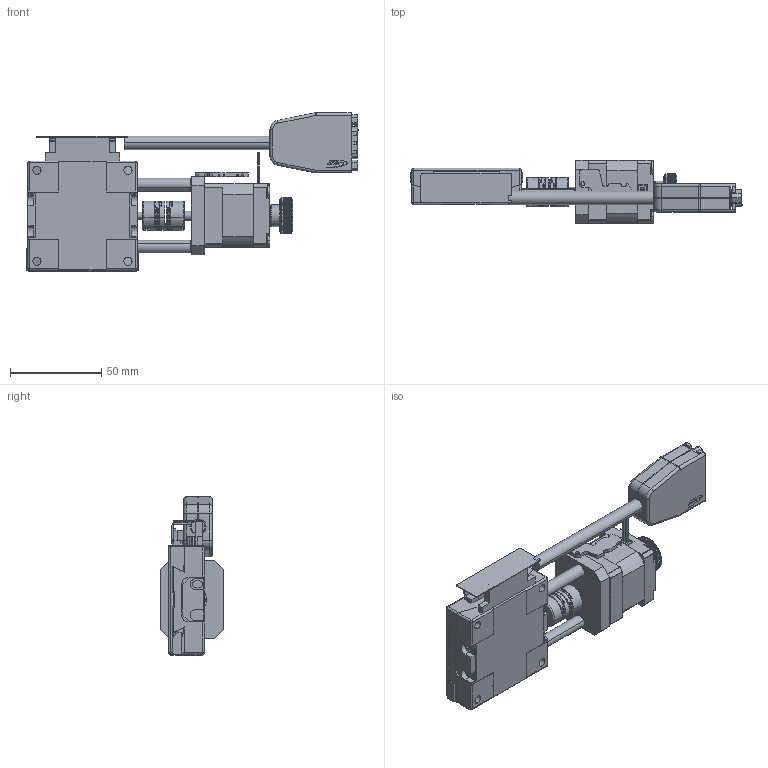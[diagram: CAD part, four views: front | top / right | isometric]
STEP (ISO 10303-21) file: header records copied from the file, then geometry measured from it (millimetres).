
FILE_DESCRIPTION (( 'STEP AP203' ), '1' );
FILE_NAME ('AXG6-60CSW-3NL ¼Ò½k¤Æ.STEP', '2014-12-06T05:55:41', ( '' ), ( '' ), 'SwSTEP 2.0', 'SolidWorks 2014', '' );
FILE_SCHEMA (( 'CONFIG_CONTROL_DESIGN' ));
Products named in the file (3): Group3^AXG6-60CSW-3NL 模糊化; Group4^AXG6-60CSW-3NL 模糊化; AXG6-60CSW-3NL 模糊化
Assembly tree (2 placements, depth 2):
  AXG6-60CSW-3NL 模糊化
    Group3^AXG6-60CSW-3NL 模糊化
    Group4^AXG6-60CSW-3NL 模糊化
Bounding box: 182.36 x 35 x 87 mm (x, y, z)
Volume: 35612.1 mm3; surface area: 58721.4 mm2
Topology: 1 solids, 8 shells, 2401 faces, 6589 edges, 4276 vertices
Faces by surface type: plane 1158, cylinder 618, bspline 285, torus 276, cone 50, sphere 14
Entity records: 96715 total; most frequent: CARTESIAN_POINT 38800, ORIENTED_EDGE 12934, DIRECTION 10677, EDGE_CURVE 6575, VERTEX_POINT 4276, AXIS2_PLACEMENT_3D 3727, VECTOR 3223, LINE 3223
